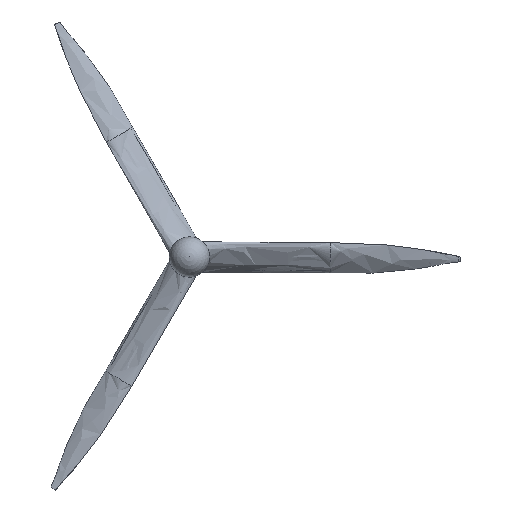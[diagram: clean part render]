
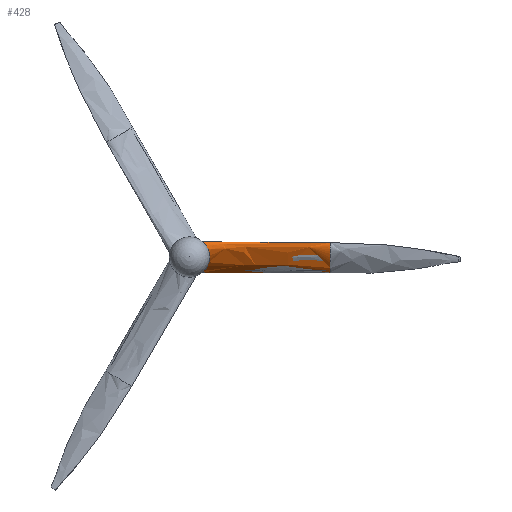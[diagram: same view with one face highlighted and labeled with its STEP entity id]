
A CAD part, top view. The second image highlights one B-rep face of the part: STEP entity #428.
In plain terms, the highlighted free-form (B-spline) face has degree [3, 3] with [4, 4] control points.
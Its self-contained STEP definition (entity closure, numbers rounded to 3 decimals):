
#76=B_SPLINE_CURVE_WITH_KNOTS('',3,(#5120,#5121,#5122,#5123),
 .UNSPECIFIED.,.F.,.F.,(4,4),(-0.379,0.),.UNSPECIFIED.);
#79=B_SPLINE_CURVE_WITH_KNOTS('',3,(#5138,#5139,#5140,#5141),
 .UNSPECIFIED.,.F.,.F.,(4,4),(-1.,-0.982),.UNSPECIFIED.);
#80=B_SPLINE_CURVE_WITH_KNOTS('',3,(#5142,#5143,#5144,#5145),
 .UNSPECIFIED.,.F.,.F.,(4,4),(-0.982,-0.379),
 .UNSPECIFIED.);
#84=B_SPLINE_CURVE_WITH_KNOTS('',3,(#5420,#5421,#5422,#5423,#5424,#5425,
#5426,#5427,#5428,#5429,#5430,#5431,#5432,#5433,#5434,#5435,#5436,#5437),
 .UNSPECIFIED.,.F.,.F.,(4,2,2,2,2,2,2,2,4),(0.,0.036,0.133,
0.301,0.415,0.493,0.55,
0.592,0.639),.UNSPECIFIED.);
#85=B_SPLINE_CURVE_WITH_KNOTS('',3,(#5438,#5439,#5440,#5441,#5442,#5443),
 .UNSPECIFIED.,.F.,.F.,(4,2,4),(0.005,0.281,1.),
 .UNSPECIFIED.);
#86=B_SPLINE_CURVE_WITH_KNOTS('',3,(#5444,#5445,#5446,#5447,#5448,#5449),
 .UNSPECIFIED.,.F.,.F.,(4,2,4),(0.009,0.281,1.),
 .UNSPECIFIED.);
#107=B_SPLINE_SURFACE_WITH_KNOTS('',3,3,((#5402,#5403,#5404,#5405),(#5406,
#5407,#5408,#5409),(#5410,#5411,#5412,#5413),(#5414,#5415,#5416,#5417)),
 .UNSPECIFIED.,.F.,.F.,.F.,(4,4),(4,4),(0.,1.),(0.005,1.),
 .UNSPECIFIED.);
#125=FACE_OUTER_BOUND('',#148,.T.);
#148=EDGE_LOOP('',(#362,#363,#364,#365,#366,#367));
#197=VERTEX_POINT('',#5118);
#198=VERTEX_POINT('',#5119);
#199=VERTEX_POINT('',#5130);
#200=VERTEX_POINT('',#5137);
#203=VERTEX_POINT('',#5418);
#204=VERTEX_POINT('',#5419);
#255=EDGE_CURVE('',#197,#198,#76,.T.);
#258=EDGE_CURVE('',#199,#200,#79,.T.);
#259=EDGE_CURVE('',#200,#197,#80,.T.);
#263=EDGE_CURVE('',#203,#204,#84,.T.);
#264=EDGE_CURVE('',#203,#198,#85,.T.);
#265=EDGE_CURVE('',#204,#199,#86,.T.);
#362=ORIENTED_EDGE('',*,*,#263,.F.);
#363=ORIENTED_EDGE('',*,*,#264,.T.);
#364=ORIENTED_EDGE('',*,*,#255,.F.);
#365=ORIENTED_EDGE('',*,*,#259,.F.);
#366=ORIENTED_EDGE('',*,*,#258,.F.);
#367=ORIENTED_EDGE('',*,*,#265,.F.);
#428=ADVANCED_FACE('',(#125),#107,.T.);
#5118=CARTESIAN_POINT('',(35.,-1.457,3.244));
#5119=CARTESIAN_POINT('',(35.,-3.905,1.035));
#5120=CARTESIAN_POINT('Ctrl Pts',(35.,-1.457,3.244));
#5121=CARTESIAN_POINT('Ctrl Pts',(35.,-2.476,2.506));
#5122=CARTESIAN_POINT('Ctrl Pts',(35.,-3.367,1.673));
#5123=CARTESIAN_POINT('Ctrl Pts',(35.,-3.905,1.035));
#5130=CARTESIAN_POINT('',(35.,3.588,4.835));
#5137=CARTESIAN_POINT('',(35.,3.47,4.88));
#5138=CARTESIAN_POINT('Ctrl Pts',(35.,3.588,4.835));
#5139=CARTESIAN_POINT('Ctrl Pts',(35.,3.549,4.852));
#5140=CARTESIAN_POINT('Ctrl Pts',(35.,3.51,4.867));
#5141=CARTESIAN_POINT('Ctrl Pts',(35.,3.47,4.88));
#5142=CARTESIAN_POINT('Ctrl Pts',(35.,3.47,4.88));
#5143=CARTESIAN_POINT('Ctrl Pts',(35.,2.106,5.35));
#5144=CARTESIAN_POINT('Ctrl Pts',(35.,0.163,4.417));
#5145=CARTESIAN_POINT('Ctrl Pts',(35.,-1.457,3.244));
#5402=CARTESIAN_POINT('Ctrl Pts',(3.161,3.759,5.023));
#5403=CARTESIAN_POINT('Ctrl Pts',(13.762,3.833,4.992));
#5404=CARTESIAN_POINT('Ctrl Pts',(24.375,3.776,4.929));
#5405=CARTESIAN_POINT('Ctrl Pts',(35.,3.588,4.835));
#5406=CARTESIAN_POINT('Ctrl Pts',(3.161,1.456,7.905));
#5407=CARTESIAN_POINT('Ctrl Pts',(13.762,2.004,5.53));
#5408=CARTESIAN_POINT('Ctrl Pts',(24.375,1.98,4.813));
#5409=CARTESIAN_POINT('Ctrl Pts',(35.,1.384,5.753));
#5410=CARTESIAN_POINT('Ctrl Pts',(3.161,-3.546,1.791));
#5411=CARTESIAN_POINT('Ctrl Pts',(13.762,-3.272,2.393));
#5412=CARTESIAN_POINT('Ctrl Pts',(24.375,-2.919,2.702));
#5413=CARTESIAN_POINT('Ctrl Pts',(35.,-2.487,2.717));
#5414=CARTESIAN_POINT('Ctrl Pts',(3.161,-3.874,0.041));
#5415=CARTESIAN_POINT('Ctrl Pts',(13.762,-3.912,-0.154));
#5416=CARTESIAN_POINT('Ctrl Pts',(24.375,-3.922,0.177));
#5417=CARTESIAN_POINT('Ctrl Pts',(35.,-3.905,1.035));
#5418=CARTESIAN_POINT('',(3.161,-3.874,0.041));
#5419=CARTESIAN_POINT('',(3.296,3.76,5.023));
#5420=CARTESIAN_POINT('Ctrl Pts',(3.161,-3.874,0.041));
#5421=CARTESIAN_POINT('Ctrl Pts',(3.187,-3.853,0.157));
#5422=CARTESIAN_POINT('Ctrl Pts',(3.237,-3.811,0.284));
#5423=CARTESIAN_POINT('Ctrl Pts',(3.44,-3.634,0.734));
#5424=CARTESIAN_POINT('Ctrl Pts',(3.682,-3.407,1.152));
#5425=CARTESIAN_POINT('Ctrl Pts',(4.375,-2.523,2.44));
#5426=CARTESIAN_POINT('Ctrl Pts',(4.755,-1.78,3.276));
#5427=CARTESIAN_POINT('Ctrl Pts',(5.026,-0.323,4.524));
#5428=CARTESIAN_POINT('Ctrl Pts',(5.024,0.268,4.934));
#5429=CARTESIAN_POINT('Ctrl Pts',(4.869,1.197,5.416));
#5430=CARTESIAN_POINT('Ctrl Pts',(4.76,1.587,5.571));
#5431=CARTESIAN_POINT('Ctrl Pts',(4.473,2.256,5.698));
#5432=CARTESIAN_POINT('Ctrl Pts',(4.324,2.53,5.704));
#5433=CARTESIAN_POINT('Ctrl Pts',(4.025,2.974,5.61));
#5434=CARTESIAN_POINT('Ctrl Pts',(3.893,3.145,5.54));
#5435=CARTESIAN_POINT('Ctrl Pts',(3.602,3.476,5.331));
#5436=CARTESIAN_POINT('Ctrl Pts',(3.447,3.628,5.187));
#5437=CARTESIAN_POINT('Ctrl Pts',(3.296,3.76,5.023));
#5438=CARTESIAN_POINT('Ctrl Pts',(3.161,-3.874,0.041));
#5439=CARTESIAN_POINT('Ctrl Pts',(6.106,-3.885,-0.014));
#5440=CARTESIAN_POINT('Ctrl Pts',(9.053,-3.893,-0.027));
#5441=CARTESIAN_POINT('Ctrl Pts',(19.661,-3.915,0.07));
#5442=CARTESIAN_POINT('Ctrl Pts',(27.327,-3.917,0.415));
#5443=CARTESIAN_POINT('Ctrl Pts',(35.,-3.905,1.035));
#5444=CARTESIAN_POINT('Ctrl Pts',(3.296,3.76,5.023));
#5445=CARTESIAN_POINT('Ctrl Pts',(6.196,3.78,5.014));
#5446=CARTESIAN_POINT('Ctrl Pts',(9.098,3.79,5.003));
#5447=CARTESIAN_POINT('Ctrl Pts',(19.661,3.791,4.955));
#5448=CARTESIAN_POINT('Ctrl Pts',(27.327,3.724,4.903));
#5449=CARTESIAN_POINT('Ctrl Pts',(35.,3.588,4.835));
